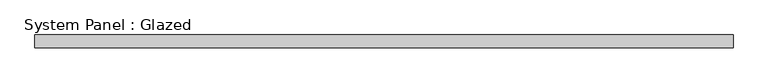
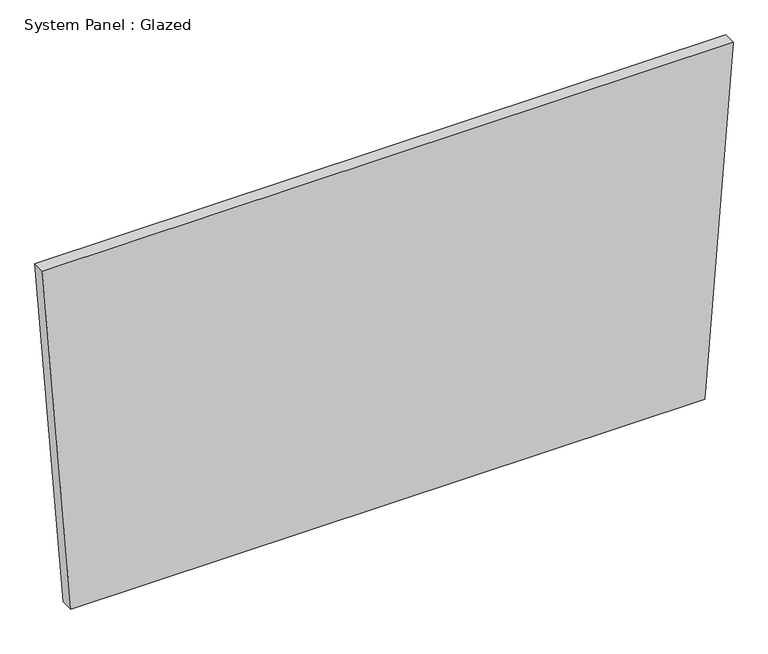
"""IFC4 building model written with IfcOpenShell, lengths in millimetres: plate geometry, System Panel : Glazed."""

from ifc_helpers import new_model, si_unit, frame, origin, place, context, project, spatial, polyline, outline, extrude, source, transform, mapped, element, save


def system_panel_glazed_b9eb00bb(model_context):
    return source(origin(), model_context, "Body", "SweptSolid", [
        extrude(outline(polyline([(0.0072441, -623.1399858), (0.0, 623.1400364), (722.7301866, 679.2344543), (722.7380828, -679.2344543), (0.0072441, -623.1399858)])), frame((0.0, 19.05, 0.0), z_axis=(0.0, 1.0, 0.0), x_axis=(0.0, 0.0, 1.0)), (0.0, 0.0, 1.0), 25.4),
    ])


if __name__ == "__main__":
    model = new_model("IFC4")
    model_context = context("Model", 3, world=origin())
    ifc_project = project(units=[si_unit("LENGTHUNIT", "METRE", prefix="MILLI")], contexts=[model_context])
    site = spatial("IfcSite", under=ifc_project)
    building = spatial("IfcBuilding", under=site)
    placement = place(None, origin())
    system_panel_glazed_shape = system_panel_glazed_b9eb00bb(model_context)
    element("IfcPlate", 1, ObjectType="System Panel : Glazed", at=placement, inside=building, context=model_context, shape_type="MappedRepresentation", body=[
        mapped(system_panel_glazed_shape, transform((0.0, 0.0, 0.0), x_axis=(1.0, 0.0, 0.0), y_axis=(0.0, 1.0, 0.0), z_axis=(0.0, 0.0, 1.0))),
    ])
    save(model, "model.ifc")
